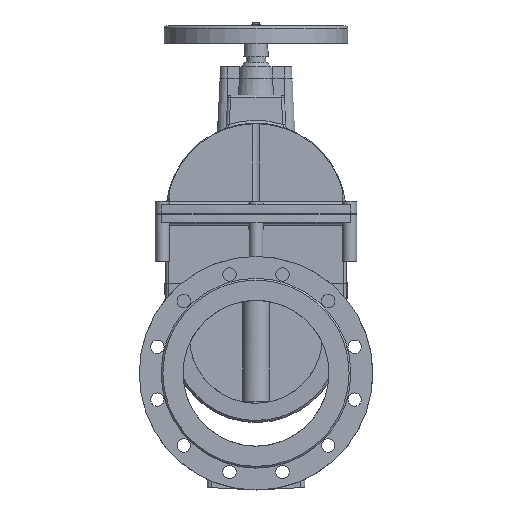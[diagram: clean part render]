
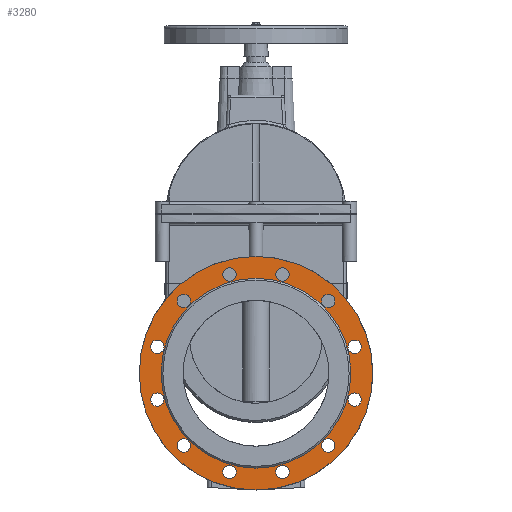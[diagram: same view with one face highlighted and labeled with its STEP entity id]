
A CAD part, left-side view. The second image highlights one B-rep face of the part: STEP entity #3280.
In plain terms, the highlighted planar face has unit normal (-1, 0, 0).
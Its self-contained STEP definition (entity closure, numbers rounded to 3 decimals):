
#3280=ADVANCED_FACE('',(#8381,#8383,#8385,#8387,#8389,#8391,#8393,#8395,#8397,#8399,
#8401,#8403,#8405,#8407),#8409,.F.);
#8381=FACE_BOUND('',#8382,.T.);
#8382=EDGE_LOOP('',(#17660));
#8383=FACE_BOUND('',#8384,.T.);
#8384=EDGE_LOOP('',(#17661));
#8385=FACE_BOUND('',#8386,.T.);
#8386=EDGE_LOOP('',(#17662));
#8387=FACE_BOUND('',#8388,.T.);
#8388=EDGE_LOOP('',(#17663));
#8389=FACE_BOUND('',#8390,.T.);
#8390=EDGE_LOOP('',(#17664));
#8391=FACE_BOUND('',#8392,.T.);
#8392=EDGE_LOOP('',(#17665));
#8393=FACE_BOUND('',#8394,.T.);
#8394=EDGE_LOOP('',(#17666));
#8395=FACE_BOUND('',#8396,.T.);
#8396=EDGE_LOOP('',(#17667));
#8397=FACE_BOUND('',#8398,.T.);
#8398=EDGE_LOOP('',(#17668));
#8399=FACE_BOUND('',#8400,.T.);
#8400=EDGE_LOOP('',(#17669));
#8401=FACE_BOUND('',#8402,.T.);
#8402=EDGE_LOOP('',(#17670));
#8403=FACE_BOUND('',#8404,.T.);
#8404=EDGE_LOOP('',(#17671));
#8405=FACE_BOUND('',#8406,.T.);
#8406=EDGE_LOOP('',(#17672));
#8407=FACE_BOUND('',#8408,.T.);
#8408=EDGE_LOOP('',(#17673));
#8409=PLANE('',#8410);
#8410=AXIS2_PLACEMENT_3D('',#8411,#8412,#8413);
#8411=CARTESIAN_POINT('',(-122.,0.,0.));
#8412=DIRECTION('',(1.,0.,0.));
#8413=DIRECTION('',(0.,1.,0.));
#17660=ORIENTED_EDGE('',*,*,#20358,.F.);
#17661=ORIENTED_EDGE('',*,*,#20378,.T.);
#17662=ORIENTED_EDGE('',*,*,#20377,.T.);
#17663=ORIENTED_EDGE('',*,*,#20376,.T.);
#17664=ORIENTED_EDGE('',*,*,#20375,.T.);
#17665=ORIENTED_EDGE('',*,*,#20374,.T.);
#17666=ORIENTED_EDGE('',*,*,#20373,.T.);
#17667=ORIENTED_EDGE('',*,*,#20372,.T.);
#17668=ORIENTED_EDGE('',*,*,#20371,.T.);
#17669=ORIENTED_EDGE('',*,*,#20370,.T.);
#17670=ORIENTED_EDGE('',*,*,#20369,.T.);
#17671=ORIENTED_EDGE('',*,*,#20368,.T.);
#17672=ORIENTED_EDGE('',*,*,#20484,.F.);
#17673=ORIENTED_EDGE('',*,*,#20367,.T.);
#20358=EDGE_CURVE('',#23012,#23012,#23013,.T.);
#20367=EDGE_CURVE('',#23024,#23024,#23025,.T.);
#20368=EDGE_CURVE('',#23026,#23026,#23027,.T.);
#20369=EDGE_CURVE('',#23028,#23028,#23029,.T.);
#20370=EDGE_CURVE('',#23030,#23030,#23031,.T.);
#20371=EDGE_CURVE('',#23032,#23032,#23033,.T.);
#20372=EDGE_CURVE('',#23034,#23034,#23035,.T.);
#20373=EDGE_CURVE('',#23036,#23036,#23037,.T.);
#20374=EDGE_CURVE('',#23038,#23038,#23039,.T.);
#20375=EDGE_CURVE('',#23040,#23040,#23041,.T.);
#20376=EDGE_CURVE('',#23042,#23042,#23043,.T.);
#20377=EDGE_CURVE('',#23044,#23044,#23045,.T.);
#20378=EDGE_CURVE('',#23046,#23046,#23047,.T.);
#20484=EDGE_CURVE('',#23212,#23212,#23213,.T.);
#23012=VERTEX_POINT('',#31711);
#23013=CIRCLE('',#31712,200.);
#23024=VERTEX_POINT('',#31746);
#23025=CIRCLE('',#31747,11.5);
#23026=VERTEX_POINT('',#31751);
#23027=CIRCLE('',#31752,11.5);
#23028=VERTEX_POINT('',#31756);
#23029=CIRCLE('',#31757,11.5);
#23030=VERTEX_POINT('',#31761);
#23031=CIRCLE('',#31762,11.5);
#23032=VERTEX_POINT('',#31766);
#23033=CIRCLE('',#31767,11.5);
#23034=VERTEX_POINT('',#31771);
#23035=CIRCLE('',#31772,11.5);
#23036=VERTEX_POINT('',#31776);
#23037=CIRCLE('',#31777,11.5);
#23038=VERTEX_POINT('',#31781);
#23039=CIRCLE('',#31782,11.5);
#23040=VERTEX_POINT('',#31786);
#23041=CIRCLE('',#31787,11.5);
#23042=VERTEX_POINT('',#31791);
#23043=CIRCLE('',#31792,11.5);
#23044=VERTEX_POINT('',#31796);
#23045=CIRCLE('',#31797,11.5);
#23046=VERTEX_POINT('',#31801);
#23047=CIRCLE('',#31802,11.5);
#23212=VERTEX_POINT('',#32348);
#23213=CIRCLE('',#32349,162.5);
#31711=CARTESIAN_POINT('',(-122.,200.,0.));
#31712=AXIS2_PLACEMENT_3D('',#31713,#31714,#31715);
#31713=CARTESIAN_POINT('',(-122.,0.,0.));
#31714=DIRECTION('',(1.,0.,0.));
#31715=DIRECTION('',(0.,1.,0.));
#31746=CARTESIAN_POINT('',(-122.,180.537,45.293));
#31747=AXIS2_PLACEMENT_3D('',#31748,#31749,#31750);
#31748=CARTESIAN_POINT('',(-122.,169.037,45.293));
#31749=DIRECTION('',(1.,0.,0.));
#31750=DIRECTION('',(0.,1.,0.));
#31751=CARTESIAN_POINT('',(-122.,178.996,-51.043));
#31752=AXIS2_PLACEMENT_3D('',#31753,#31754,#31755);
#31753=CARTESIAN_POINT('',(-122.,169.037,-45.293));
#31754=DIRECTION('',(1.,0.,0.));
#31755=DIRECTION('',(0.,0.866,-0.5));
#31756=CARTESIAN_POINT('',(-122.,129.494,-133.703));
#31757=AXIS2_PLACEMENT_3D('',#31758,#31759,#31760);
#31758=CARTESIAN_POINT('',(-122.,123.744,-123.744));
#31759=DIRECTION('',(1.,0.,0.));
#31760=DIRECTION('',(0.,0.5,-0.866));
#31761=CARTESIAN_POINT('',(-122.,45.293,-180.537));
#31762=AXIS2_PLACEMENT_3D('',#31763,#31764,#31765);
#31763=CARTESIAN_POINT('',(-122.,45.293,-169.037));
#31764=DIRECTION('',(1.,0.,0.));
#31765=DIRECTION('',(0.,0.,-1.));
#31766=CARTESIAN_POINT('',(-122.,-51.043,-178.996));
#31767=AXIS2_PLACEMENT_3D('',#31768,#31769,#31770);
#31768=CARTESIAN_POINT('',(-122.,-45.293,-169.037));
#31769=DIRECTION('',(1.,0.,0.));
#31770=DIRECTION('',(0.,-0.5,-0.866));
#31771=CARTESIAN_POINT('',(-122.,-133.703,-129.494));
#31772=AXIS2_PLACEMENT_3D('',#31773,#31774,#31775);
#31773=CARTESIAN_POINT('',(-122.,-123.744,-123.744));
#31774=DIRECTION('',(1.,0.,0.));
#31775=DIRECTION('',(0.,-0.866,-0.5));
#31776=CARTESIAN_POINT('',(-122.,-180.537,-45.293));
#31777=AXIS2_PLACEMENT_3D('',#31778,#31779,#31780);
#31778=CARTESIAN_POINT('',(-122.,-169.037,-45.293));
#31779=DIRECTION('',(1.,0.,0.));
#31780=DIRECTION('',(0.,-1.,0.));
#31781=CARTESIAN_POINT('',(-122.,-178.996,51.043));
#31782=AXIS2_PLACEMENT_3D('',#31783,#31784,#31785);
#31783=CARTESIAN_POINT('',(-122.,-169.037,45.293));
#31784=DIRECTION('',(1.,0.,0.));
#31785=DIRECTION('',(0.,-0.866,0.5));
#31786=CARTESIAN_POINT('',(-122.,-129.494,133.703));
#31787=AXIS2_PLACEMENT_3D('',#31788,#31789,#31790);
#31788=CARTESIAN_POINT('',(-122.,-123.744,123.744));
#31789=DIRECTION('',(1.,0.,0.));
#31790=DIRECTION('',(0.,-0.5,0.866));
#31791=CARTESIAN_POINT('',(-122.,-45.293,180.537));
#31792=AXIS2_PLACEMENT_3D('',#31793,#31794,#31795);
#31793=CARTESIAN_POINT('',(-122.,-45.293,169.037));
#31794=DIRECTION('',(1.,0.,0.));
#31795=DIRECTION('',(0.,0.,1.));
#31796=CARTESIAN_POINT('',(-122.,51.043,178.996));
#31797=AXIS2_PLACEMENT_3D('',#31798,#31799,#31800);
#31798=CARTESIAN_POINT('',(-122.,45.293,169.037));
#31799=DIRECTION('',(1.,0.,0.));
#31800=DIRECTION('',(0.,0.5,0.866));
#31801=CARTESIAN_POINT('',(-122.,133.703,129.494));
#31802=AXIS2_PLACEMENT_3D('',#31803,#31804,#31805);
#31803=CARTESIAN_POINT('',(-122.,123.744,123.744));
#31804=DIRECTION('',(1.,0.,0.));
#31805=DIRECTION('',(0.,0.866,0.5));
#32348=CARTESIAN_POINT('',(-122.,-162.5,0.));
#32349=AXIS2_PLACEMENT_3D('',#32350,#32351,#32352);
#32350=CARTESIAN_POINT('',(-122.,0.,0.));
#32351=DIRECTION('',(-1.,0.,0.));
#32352=DIRECTION('',(0.,-1.,0.));
